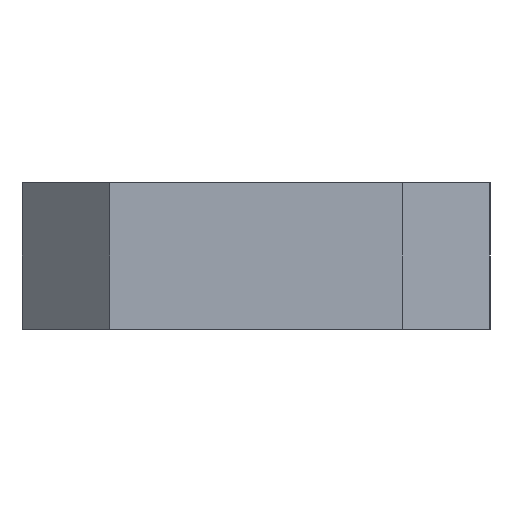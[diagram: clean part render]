
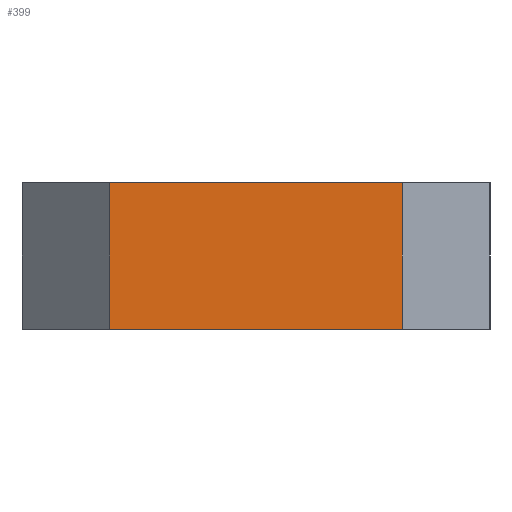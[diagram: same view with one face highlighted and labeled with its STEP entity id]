
A CAD part, left-side view. The second image highlights one B-rep face of the part: STEP entity #399.
In plain terms, the highlighted planar face has unit normal (-1, 0, 0).
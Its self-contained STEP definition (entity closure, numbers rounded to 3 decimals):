
#1 = CARTESIAN_POINT ( 'NONE',  ( 0., -8., -5. ) ) ;
#9 = LINE ( 'NONE', #1, #329 ) ;
#18 = ORIENTED_EDGE ( 'NONE', *, *, #381, .T. ) ;
#35 = VERTEX_POINT ( 'NONE', #92 ) ;
#59 = EDGE_LOOP ( 'NONE', ( #435, #289, #239, #18 ) ) ;
#69 = VECTOR ( 'NONE', #203, 1000. ) ;
#77 = VERTEX_POINT ( 'NONE', #98 ) ;
#78 = CARTESIAN_POINT ( 'NONE',  ( 0., -8., 0. ) ) ;
#92 = CARTESIAN_POINT ( 'NONE',  ( 0., -3., -5. ) ) ;
#98 = CARTESIAN_POINT ( 'NONE',  ( 0., -13., -5. ) ) ;
#122 = VECTOR ( 'NONE', #252, 1000. ) ;
#135 = LINE ( 'NONE', #426, #122 ) ;
#163 = VERTEX_POINT ( 'NONE', #478 ) ;
#178 = LINE ( 'NONE', #78, #69 ) ;
#203 = DIRECTION ( 'NONE',  ( 0., -1., 0. ) ) ;
#213 = DIRECTION ( 'NONE',  ( -1., 0., 0. ) ) ;
#214 = CARTESIAN_POINT ( 'NONE',  ( 0., -3., -2.5 ) ) ;
#220 = FACE_OUTER_BOUND ( 'NONE', #59, .T. ) ;
#230 = VERTEX_POINT ( 'NONE', #483 ) ;
#234 = LINE ( 'NONE', #214, #447 ) ;
#239 = ORIENTED_EDGE ( 'NONE', *, *, #491, .F. ) ;
#252 = DIRECTION ( 'NONE',  ( 0., 0., 1. ) ) ;
#287 = CARTESIAN_POINT ( 'NONE',  ( 0., -3., -5. ) ) ;
#289 = ORIENTED_EDGE ( 'NONE', *, *, #377, .T. ) ;
#329 = VECTOR ( 'NONE', #425, 1000. ) ;
#334 = DIRECTION ( 'NONE',  ( 0., 0., -1. ) ) ;
#377 = EDGE_CURVE ( 'NONE', #77, #230, #135, .T. ) ;
#381 = EDGE_CURVE ( 'NONE', #163, #35, #234, .T. ) ;
#399 = ADVANCED_FACE ( 'NONE', ( #220 ), #505, .T. ) ;
#402 = AXIS2_PLACEMENT_3D ( 'NONE', #287, #213, #464 ) ;
#411 = EDGE_CURVE ( 'NONE', #35, #77, #9, .T. ) ;
#425 = DIRECTION ( 'NONE',  ( 0., -1., 0. ) ) ;
#426 = CARTESIAN_POINT ( 'NONE',  ( 0., -13., -2.5 ) ) ;
#435 = ORIENTED_EDGE ( 'NONE', *, *, #411, .T. ) ;
#447 = VECTOR ( 'NONE', #334, 1000. ) ;
#464 = DIRECTION ( 'NONE',  ( 0., -1., 0. ) ) ;
#478 = CARTESIAN_POINT ( 'NONE',  ( 0., -3., 0. ) ) ;
#483 = CARTESIAN_POINT ( 'NONE',  ( 0., -13., 0. ) ) ;
#491 = EDGE_CURVE ( 'NONE', #163, #230, #178, .T. ) ;
#505 = PLANE ( 'NONE',  #402 ) ;
